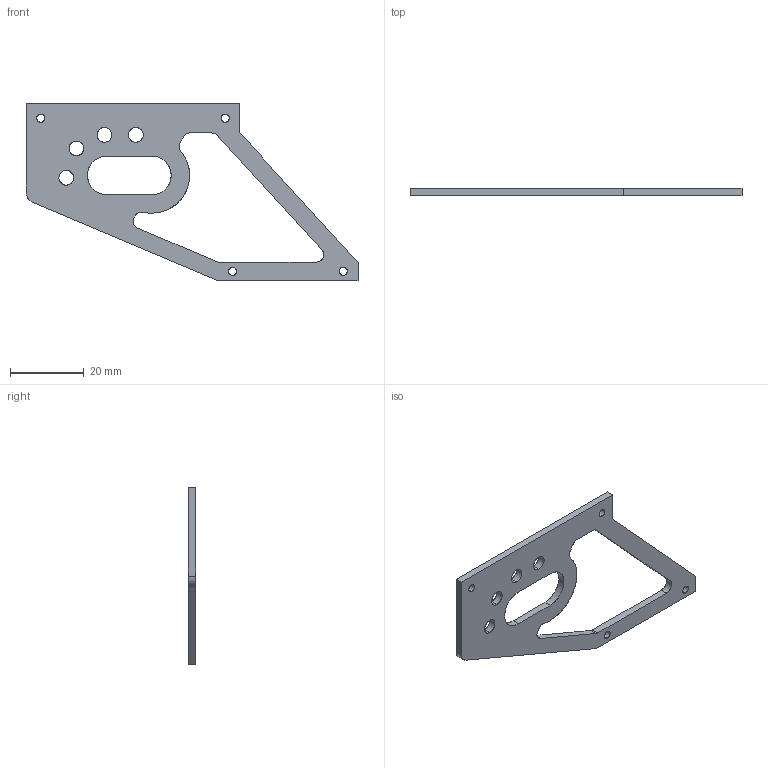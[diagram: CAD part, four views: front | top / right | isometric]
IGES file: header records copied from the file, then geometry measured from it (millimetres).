
Start section: SolidWorks IGES file using analytic representation for surfaces
Global section: file name: C:\Users\AndreBernot\Downloads\K-RACER-L_3D_SW\K-RACER-L_3D_SW\Support aileron plat RACER-L.IGS; native system: SolidWorks 2015; preprocessor: SolidWorks 2015; author: AndreBernot; date: 170922.151544; units: millimetre
Bounding box: 90 x 2 x 48 mm (x, y, z)
Surface area: 4485.4 mm2 (no closed solid volume)
Topology: 0 solids, 0 shells, 45 faces, 898 edges, 898 vertices
Faces by surface type: revolution 28, bspline 17
